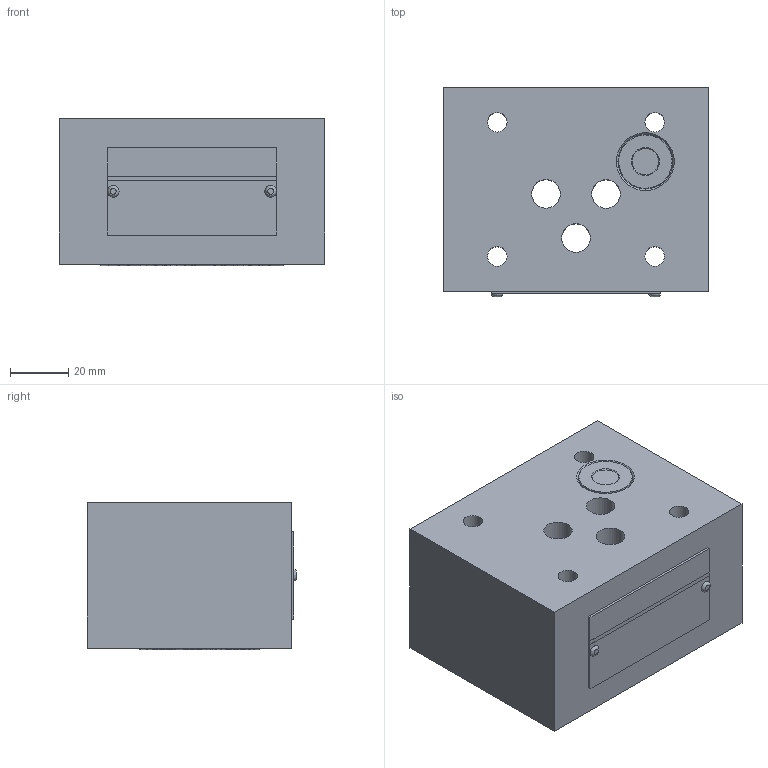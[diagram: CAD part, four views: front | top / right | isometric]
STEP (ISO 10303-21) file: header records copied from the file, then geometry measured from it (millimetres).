
FILE_DESCRIPTION(/* description */ (''),/* implementation_level */ '2;1');
FILE_NAME(/* name */ 'Z1S10T叠加式单向阀.prt.stp',/* time_stamp */ '2022-03-30T19:25:37+08:00',/* author */ (''),/* organization */ (''),/* preprocessor_version */ 'ST-DEVELOPER v16.7',/* originating_system */ 'SIEMENS PLM Software NX 12.0',/* authorisation */ '');
FILE_SCHEMA (('AUTOMOTIVE_DESIGN { 1 0 10303 214 3 1 1 1 }'));
Length unit declared in the file: millimetre
Products named in the file (1): Z1S10T叠加式单向阀
Bounding box: 91 x 71.8 x 50.5 mm (x, y, z)
Volume: 298597 mm3; surface area: 45155.1 mm2
Topology: 10 solids, 10 shells, 64 faces, 134 edges, 87 vertices
Faces by surface type: plane 29, cylinder 21, cone 5, torus 5, bspline 4
Full cylindrical faces by diameter (mm): 1.8 x4, 2 x2, 6.7 x4, 9.8 x4, 15.7 x5, 18.3 x1, 18.8 x1
Entity records: 1677 total; most frequent: CARTESIAN_POINT 342, DIRECTION 258, ORIENTED_EDGE 172, EDGE_LOOP 116, AXIS2_PLACEMENT_3D 111, FACE_BOUND 109, EDGE_CURVE 86, VERTEX_POINT 83
